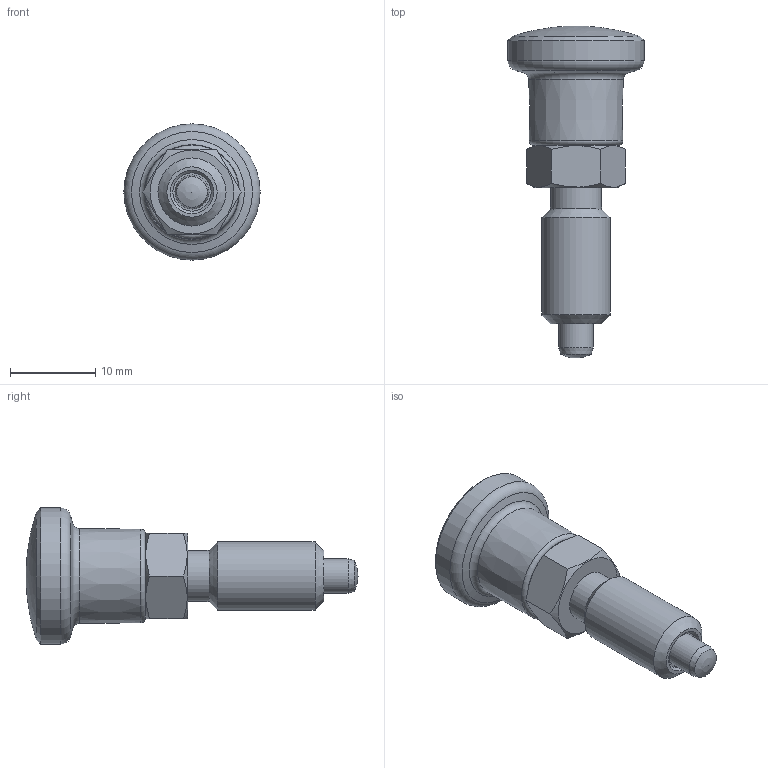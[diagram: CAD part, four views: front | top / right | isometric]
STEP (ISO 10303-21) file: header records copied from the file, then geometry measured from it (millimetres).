
FILE_DESCRIPTION( ( 'STEP AP203' ), '1' );
FILE_NAME( 'C:/Temp/Ganter_Step_05_03_2020/data/3_1/gn817/gn817_ni-rastbolzen_rot/Stainless steel-Indexing plunger GN 817-4-4-B-NI-RT (deactivated).stp', '2020-03-12T09:00:10', ( 'License CC BY-ND 4.0' ), ( 'CADENAS' ), ' ', 'PARTsolutions', ' ' );
FILE_SCHEMA( ( 'CONFIG_CONTROL_DESIGN' ) );
Length unit declared in the file: millimetre
Products named in the file (4): Stainless steel-Indexing plunger GN 817-4-4-B-NI-RT (deactivated); _Stainless steel-Indexing plunger GN 817-4-4-B-NI-RT (deactivated)-d; _Stainless steel-Indexing plunger GN 817-4-4-B-NI-RT-2; _Stainless Steel Indexing plunger GN 817-4-4-B-NI-RT-1
Assembly tree (3 placements, depth 2):
  Stainless steel-Indexing plunger GN 817-4-4-B-NI-RT (deactivated)
    _Stainless steel-Indexing plunger GN 817-4-4-B-NI-RT (deactivated)-d
    _Stainless steel-Indexing plunger GN 817-4-4-B-NI-RT-2
    _Stainless Steel Indexing plunger GN 817-4-4-B-NI-RT-1
Bounding box: 16 x 39 x 16 mm (x, y, z)
Volume: 2916.8 mm3; surface area: 2157.3 mm2
Topology: 2 solids, 2 shells, 38 faces, 76 edges, 46 vertices
Faces by surface type: plane 13, cone 10, cylinder 8, torus 5, bspline 1, sphere 1
Full cylindrical faces by diameter (mm): 3 x2, 4 x1, 4.5 x2, 6 x1, 8 x1, 16 x1
Entity records: 1082 total; most frequent: CARTESIAN_POINT 270, DIRECTION 148, ORIENTED_EDGE 96, AXIS2_PLACEMENT_3D 71, EDGE_LOOP 68, FACE_OUTER_BOUND 51, EDGE_CURVE 48, VERTEX_POINT 44
